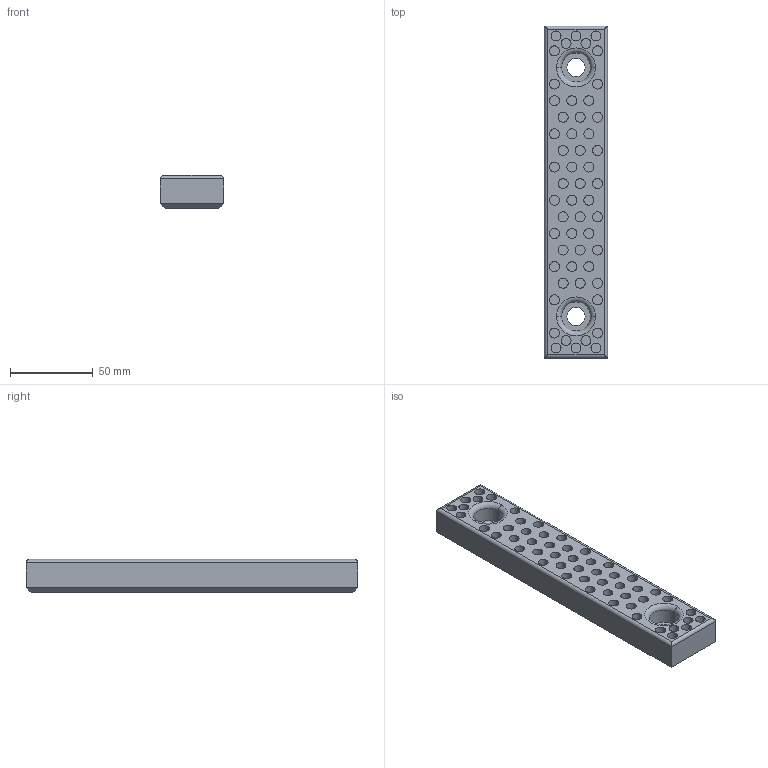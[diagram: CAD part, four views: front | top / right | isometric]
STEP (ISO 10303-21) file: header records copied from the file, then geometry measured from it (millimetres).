
FILE_DESCRIPTION (( 'STEP AP214' ), '1' );
FILE_NAME ('SW224-02-38x200.STEP', '2020-10-19T07:37:34', ( 'August' ), ( '' ), 'SwSTEP 2.0', 'SolidWorks 2018', '' );
FILE_SCHEMA (( 'AUTOMOTIVE_DESIGN' ));
Length unit declared in the file: millimetre
Products named in the file (1): SW224-02-38x200
Bounding box: 38 x 200 x 20 mm (x, y, z)
Volume: 131584.7 mm3; surface area: 31738 mm2
Topology: 1 solids, 1 shells, 190 faces, 384 edges, 252 vertices
Faces by surface type: cylinder 120, plane 66, torus 4
Entity records: 5590 total; most frequent: CARTESIAN_POINT 1011, DIRECTION 998, ORIENTED_EDGE 768, AXIS2_PLACEMENT_3D 431, EDGE_CURVE 384, VERTEX_POINT 252, EDGE_LOOP 250, CIRCLE 240
